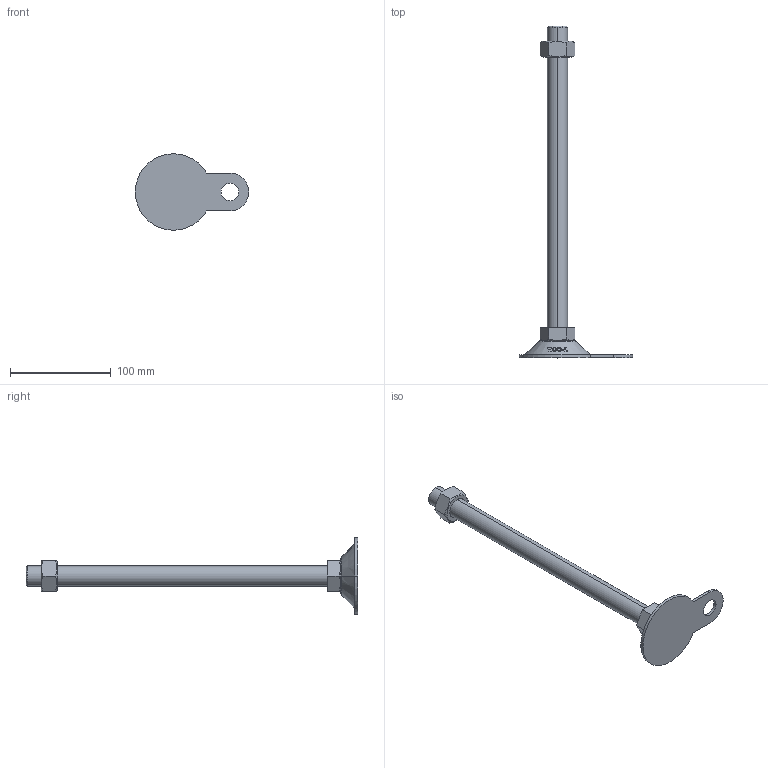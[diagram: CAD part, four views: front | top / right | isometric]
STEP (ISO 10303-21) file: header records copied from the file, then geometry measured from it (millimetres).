
FILE_DESCRIPTION (( 'STEP AP214' ), '1' );
FILE_NAME ('ABL76-M20-300.step', '2021-02-05T04:21:11', ( '' ), ( '' ), 'SwSTEP 2.0', 'SolidWorks 2019', '' );
FILE_SCHEMA (( 'AUTOMOTIVE_DESIGN' ));
Length unit declared in the file: millimetre
Products named in the file (2): ABL76-M20-300
Bounding box: 112.8 x 330 x 76 mm (x, y, z)
Volume: 157125.9 mm3; surface area: 37023.7 mm2
Topology: 2 solids, 2 shells, 128 faces, 325 edges, 212 vertices
Faces by surface type: plane 48, cylinder 38, cone 22, bspline 18, torus 2
Entity records: 5487 total; most frequent: CARTESIAN_POINT 2601, ORIENTED_EDGE 650, DIRECTION 473, EDGE_CURVE 325, VERTEX_POINT 212, AXIS2_PLACEMENT_3D 176, EDGE_LOOP 143, B_SPLINE_CURVE_WITH_KNOTS 140
